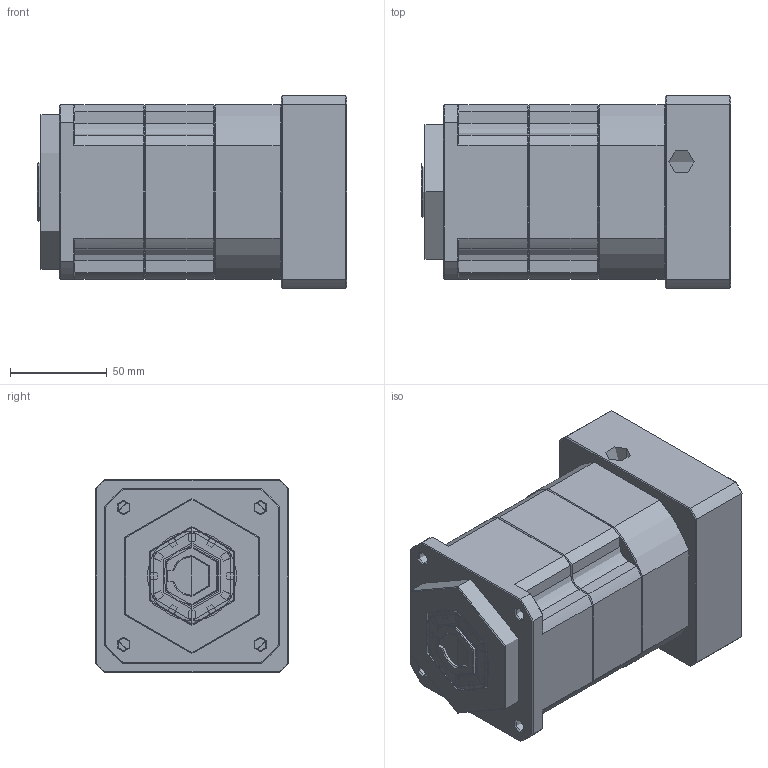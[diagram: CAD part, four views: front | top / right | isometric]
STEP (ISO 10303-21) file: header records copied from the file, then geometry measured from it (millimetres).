
FILE_DESCRIPTION (( 'STEP AP214' ), '1' );
FILE_NAME ('ZPB090-K20-L2-P1-19-95-115-M6.step', '2024-06-07T18:26:20', ( 'Windows 蚚誧' ), ( 'Organization' ), 'SwSTEP 2.0', 'SolidWorks 2016', '' );
FILE_SCHEMA (( 'AUTOMOTIVE_DESIGN' ));
Length unit declared in the file: millimetre
Products named in the file (1): ZPB090-K20-L2-P1-19-95-115-M6
Bounding box: 160 x 100 x 100 mm (x, y, z)
Topology: 0 solids, 36 shells, 1860 faces, 4899 edges, 3107 vertices
Faces by surface type: plane 962, bspline 382, cone 285, cylinder 231
Entity records: 88077 total; most frequent: CARTESIAN_POINT 40458, ORIENTED_EDGE 9778, DIRECTION 7584, EDGE_CURVE 4900, LINE 3248, VECTOR 3248, VERTEX_POINT 3107, AXIS2_PLACEMENT_3D 2168
